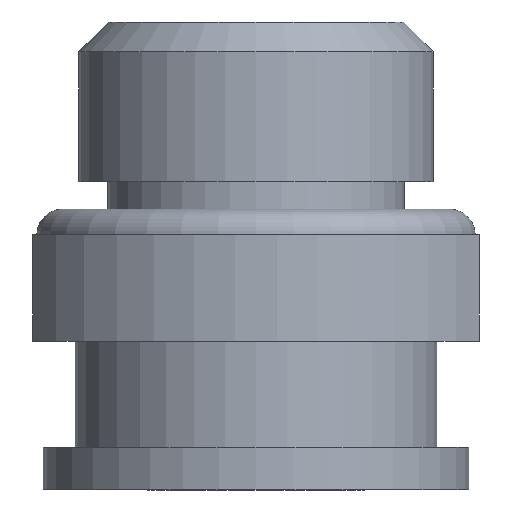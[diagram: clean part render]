
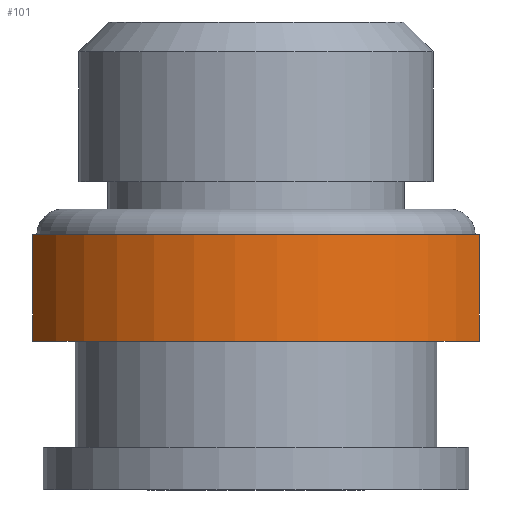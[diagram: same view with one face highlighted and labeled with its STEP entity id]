
A CAD part, front view. The second image highlights one B-rep face of the part: STEP entity #101.
In plain terms, the highlighted cylindrical face has radius 12 mm (diameter 24 mm), a partial arc.
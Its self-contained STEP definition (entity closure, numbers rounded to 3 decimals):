
#101=ADVANCED_FACE('',(#198),#199,.T.);
#198=FACE_OUTER_BOUND('',#280,.T.);
#199=CYLINDRICAL_SURFACE('',#281,12.0);
#280=EDGE_LOOP('',(#397,#398,#399,#400));
#281=AXIS2_PLACEMENT_3D('',#401,#402,#403);
#397=ORIENTED_EDGE('',*,*,#419,.F.);
#398=ORIENTED_EDGE('',*,*,#435,.T.);
#399=ORIENTED_EDGE('',*,*,#412,.F.);
#400=ORIENTED_EDGE('',*,*,#432,.F.);
#401=CARTESIAN_POINT('',(0.0,0.0,12.0));
#402=DIRECTION('',(0.0,0.0,-1.0));
#403=DIRECTION('',(-1.0,0.0,0.0));
#412=EDGE_CURVE('',#455,#456,#457,.T.);
#419=EDGE_CURVE('',#467,#469,#470,.F.);
#432=EDGE_CURVE('',#469,#455,#488,.T.);
#435=EDGE_CURVE('',#467,#456,#492,.T.);
#455=VERTEX_POINT('',#519);
#456=VERTEX_POINT('',#520);
#457=LINE('',#521,#522);
#467=VERTEX_POINT('',#536);
#469=VERTEX_POINT('',#539);
#470=LINE('',#540,#541);
#488=CIRCLE('',#560,12.0);
#492=CIRCLE('',#564,12.0);
#519=CARTESIAN_POINT('',(10.5,-5.809,12.0));
#520=CARTESIAN_POINT('',(10.5,-5.809,7.0));
#521=CARTESIAN_POINT('',(10.5,-5.809,12.0));
#522=VECTOR('',#590,1.0);
#536=CARTESIAN_POINT('',(-10.5,-5.809,7.0));
#539=CARTESIAN_POINT('',(-10.5,-5.809,12.0));
#540=CARTESIAN_POINT('',(-10.5,-5.809,12.0));
#541=VECTOR('',#596,1.0);
#560=AXIS2_PLACEMENT_3D('',#619,#620,#621);
#564=AXIS2_PLACEMENT_3D('',#625,#626,#627);
#590=DIRECTION('',(0.0,0.0,-1.0));
#596=DIRECTION('',(0.0,0.0,-1.0));
#619=CARTESIAN_POINT('',(0.0,0.0,12.0));
#620=DIRECTION('',(0.0,0.0,1.0));
#621=DIRECTION('',(1.0,0.0,0.0));
#625=CARTESIAN_POINT('',(0.0,0.0,7.0));
#626=DIRECTION('',(0.0,0.0,1.0));
#627=DIRECTION('',(1.0,0.0,0.0));
